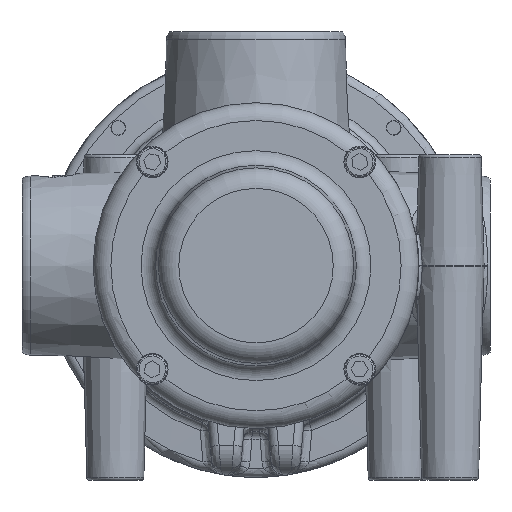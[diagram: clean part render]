
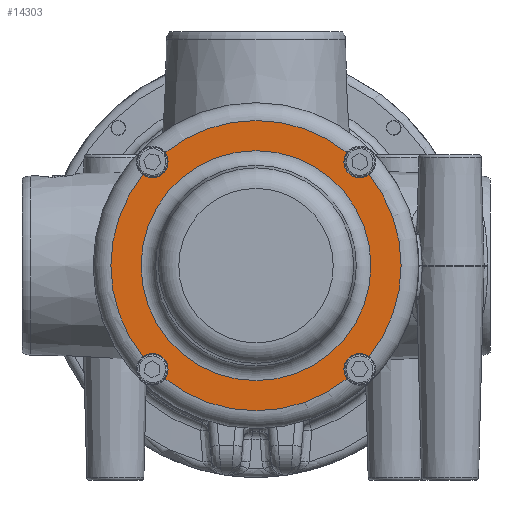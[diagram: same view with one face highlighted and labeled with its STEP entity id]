
A CAD part, front view. The second image highlights one B-rep face of the part: STEP entity #14303.
In plain terms, the highlighted planar face has unit normal (0, -1, 0).
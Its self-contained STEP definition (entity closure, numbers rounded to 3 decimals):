
#1105=FACE_BOUND('',#2448,.T.);
#1215=PLANE('',#15363);
#1591=FACE_OUTER_BOUND('',#2447,.T.);
#2447=EDGE_LOOP('',(#9556,#9557,#9558,#9559,#9560,#9561,#9562,#9563,#9564,
#9565,#9566));
#2448=EDGE_LOOP('',(#9567,#9568));
#4785=CIRCLE('',#15330,5.308);
#4786=CIRCLE('',#15332,5.308);
#4787=CIRCLE('',#15333,5.308);
#4788=CIRCLE('',#15335,5.308);
#4789=CIRCLE('',#15336,5.308);
#4790=CIRCLE('',#15338,5.308);
#4794=CIRCLE('',#15343,49.);
#4795=CIRCLE('',#15344,49.);
#4796=CIRCLE('',#15345,49.);
#4797=CIRCLE('',#15346,49.);
#4798=CIRCLE('',#15347,49.);
#4809=CIRCLE('',#15361,38.818);
#4810=CIRCLE('',#15362,38.818);
#5658=VERTEX_POINT('',#21048);
#5659=VERTEX_POINT('',#21073);
#5660=VERTEX_POINT('',#21084);
#5661=VERTEX_POINT('',#21086);
#5662=VERTEX_POINT('',#21088);
#5663=VERTEX_POINT('',#21121);
#5664=VERTEX_POINT('',#21123);
#5665=VERTEX_POINT('',#21125);
#5667=VERTEX_POINT('',#21160);
#5668=VERTEX_POINT('',#21171);
#5671=VERTEX_POINT('',#21200);
#5680=VERTEX_POINT('',#21228);
#5681=VERTEX_POINT('',#21230);
#7127=EDGE_CURVE('',#5659,#5658,#4785,.T.);
#7130=EDGE_CURVE('',#5661,#5660,#4786,.T.);
#7132=EDGE_CURVE('',#5660,#5662,#4787,.T.);
#7134=EDGE_CURVE('',#5664,#5663,#4788,.T.);
#7136=EDGE_CURVE('',#5663,#5665,#4789,.T.);
#7139=EDGE_CURVE('',#5668,#5667,#4790,.T.);
#7144=EDGE_CURVE('',#5671,#5665,#4794,.T.);
#7145=EDGE_CURVE('',#5664,#5662,#4795,.T.);
#7146=EDGE_CURVE('',#5661,#5658,#4796,.T.);
#7147=EDGE_CURVE('',#5659,#5667,#4797,.T.);
#7148=EDGE_CURVE('',#5668,#5671,#4798,.T.);
#7160=EDGE_CURVE('',#5681,#5680,#4809,.T.);
#7161=EDGE_CURVE('',#5680,#5681,#4810,.T.);
#9556=ORIENTED_EDGE('',*,*,#7127,.T.);
#9557=ORIENTED_EDGE('',*,*,#7146,.F.);
#9558=ORIENTED_EDGE('',*,*,#7130,.T.);
#9559=ORIENTED_EDGE('',*,*,#7132,.T.);
#9560=ORIENTED_EDGE('',*,*,#7145,.F.);
#9561=ORIENTED_EDGE('',*,*,#7134,.T.);
#9562=ORIENTED_EDGE('',*,*,#7136,.T.);
#9563=ORIENTED_EDGE('',*,*,#7144,.F.);
#9564=ORIENTED_EDGE('',*,*,#7148,.F.);
#9565=ORIENTED_EDGE('',*,*,#7139,.T.);
#9566=ORIENTED_EDGE('',*,*,#7147,.F.);
#9567=ORIENTED_EDGE('',*,*,#7160,.T.);
#9568=ORIENTED_EDGE('',*,*,#7161,.T.);
#14303=ADVANCED_FACE('',(#1591,#1105),#1215,.T.);
#15330=AXIS2_PLACEMENT_3D('',#21074,#17183,#17184);
#15332=AXIS2_PLACEMENT_3D('',#21087,#17188,#17189);
#15333=AXIS2_PLACEMENT_3D('',#21119,#17190,#17191);
#15335=AXIS2_PLACEMENT_3D('',#21124,#17195,#17196);
#15336=AXIS2_PLACEMENT_3D('',#21156,#17197,#17198);
#15338=AXIS2_PLACEMENT_3D('',#21172,#17202,#17203);
#15343=AXIS2_PLACEMENT_3D('',#21202,#17212,#17213);
#15344=AXIS2_PLACEMENT_3D('',#21203,#17214,#17215);
#15345=AXIS2_PLACEMENT_3D('',#21204,#17216,#17217);
#15346=AXIS2_PLACEMENT_3D('',#21205,#17218,#17219);
#15347=AXIS2_PLACEMENT_3D('',#21206,#17220,#17221);
#15361=AXIS2_PLACEMENT_3D('',#21231,#17249,#17250);
#15362=AXIS2_PLACEMENT_3D('',#21232,#17251,#17252);
#15363=AXIS2_PLACEMENT_3D('',#21233,#17253,#17254);
#17183=DIRECTION('center_axis',(0.,1.,0.));
#17184=DIRECTION('ref_axis',(-1.,0.,0.));
#17188=DIRECTION('center_axis',(0.,1.,0.));
#17189=DIRECTION('ref_axis',(-1.,0.,0.));
#17190=DIRECTION('center_axis',(0.,1.,0.));
#17191=DIRECTION('ref_axis',(-1.,0.,0.));
#17195=DIRECTION('center_axis',(0.,1.,0.));
#17196=DIRECTION('ref_axis',(-1.,0.,0.));
#17197=DIRECTION('center_axis',(0.,1.,0.));
#17198=DIRECTION('ref_axis',(-1.,0.,0.));
#17202=DIRECTION('center_axis',(0.,1.,0.));
#17203=DIRECTION('ref_axis',(-1.,0.,0.));
#17212=DIRECTION('center_axis',(0.,1.,0.));
#17213=DIRECTION('ref_axis',(-1.,0.,0.));
#17214=DIRECTION('center_axis',(0.,1.,0.));
#17215=DIRECTION('ref_axis',(-1.,0.,0.));
#17216=DIRECTION('center_axis',(0.,1.,0.));
#17217=DIRECTION('ref_axis',(-1.,0.,0.));
#17218=DIRECTION('center_axis',(0.,1.,0.));
#17219=DIRECTION('ref_axis',(-1.,0.,0.));
#17220=DIRECTION('center_axis',(0.,1.,0.));
#17221=DIRECTION('ref_axis',(-1.,0.,0.));
#17249=DIRECTION('center_axis',(0.,1.,0.));
#17250=DIRECTION('ref_axis',(-1.,0.,0.));
#17251=DIRECTION('center_axis',(0.,1.,0.));
#17252=DIRECTION('ref_axis',(-1.,0.,0.));
#17253=DIRECTION('center_axis',(0.,-1.,0.));
#17254=DIRECTION('ref_axis',(0.,0.,
-1.));
#21048=CARTESIAN_POINT('',(30.736,-7.,38.161));
#21073=CARTESIAN_POINT('',(38.161,-7.,30.736));
#21074=CARTESIAN_POINT('Origin',(35.,-7.,35.));
#21084=CARTESIAN_POINT('',(-29.692,-7.,35.));
#21086=CARTESIAN_POINT('',(-30.736,-7.,38.161));
#21087=CARTESIAN_POINT('Origin',(-35.,-7.,35.));
#21088=CARTESIAN_POINT('',(-38.161,-7.,30.736));
#21119=CARTESIAN_POINT('Origin',(-35.,-7.,35.));
#21121=CARTESIAN_POINT('',(-29.692,-7.,-35.));
#21123=CARTESIAN_POINT('',(-38.161,-7.,-30.736));
#21124=CARTESIAN_POINT('Origin',(-35.,-7.,-35.));
#21125=CARTESIAN_POINT('',(-30.736,-7.,-38.161));
#21156=CARTESIAN_POINT('Origin',(-35.,-7.,-35.));
#21160=CARTESIAN_POINT('',(38.161,-7.,-30.736));
#21171=CARTESIAN_POINT('',(30.736,-7.,-38.161));
#21172=CARTESIAN_POINT('Origin',(35.,-7.,-35.));
#21200=CARTESIAN_POINT('',(0.,-7.,-49.));
#21202=CARTESIAN_POINT('Origin',(0.,-7.,
0.));
#21203=CARTESIAN_POINT('Origin',(0.,-7.,
0.));
#21204=CARTESIAN_POINT('Origin',(0.,-7.,
0.));
#21205=CARTESIAN_POINT('Origin',(0.,-7.,
0.));
#21206=CARTESIAN_POINT('Origin',(0.,-7.,
0.));
#21228=CARTESIAN_POINT('',(0.,-7.,-38.818));
#21230=CARTESIAN_POINT('',(-38.818,-7.,0.));
#21231=CARTESIAN_POINT('Origin',(0.,-7.,
0.));
#21232=CARTESIAN_POINT('Origin',(0.,-7.,
0.));
#21233=CARTESIAN_POINT('Origin',(-43.909,-7.,0.));
